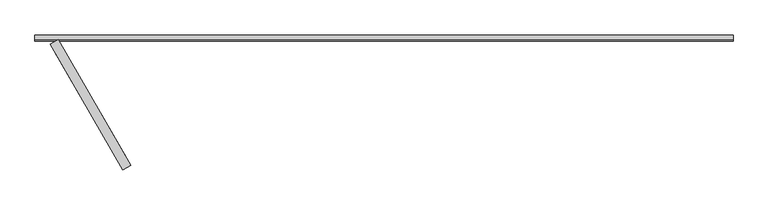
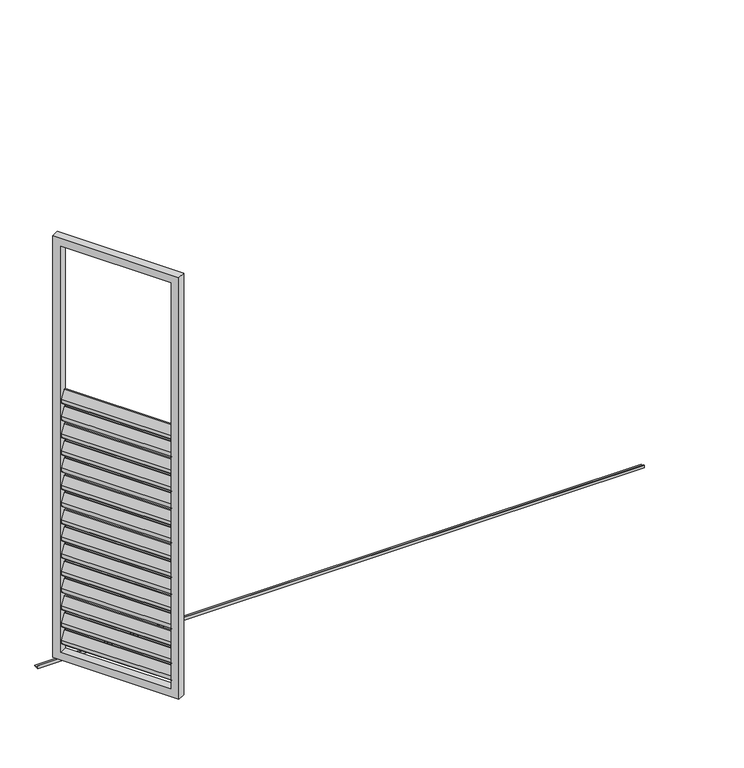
"""IFC4 building model written with IfcOpenShell, lengths in millimetres: proxy geometry, Renson_Amani_Loggia_Paro_Aluminium_Folding : Renson_Amani_Loggia_Paro_Aluminium_Folding."""

from ifc_helpers import new_model, si_unit, point, frame, frame_2d, origin, place, context, project, spatial, polyline, circle_curve, trimmed, segment, composite_curve, outline, extrude, source, transform, mapped, element, save


def generic_models_0657f29a(model_context):
    return source(origin(), model_context, "Body", "SweptSolid", [
        extrude(outline(composite_curve([segment(polyline([(-44.0658831, 0.0), (0.8886405, 0.0), (17.0325667, -10.4839883)]), True, "CONTINUOUS"), segment(trimmed(circle_curve(frame_2d((15.3986496, -13.0)), 3.0), [point((17.0325667, -10.4839883))], [point((15.3986496, -16.0))], False, "CARTESIAN"), True, "CONTINUOUS"), segment(polyline([(15.3986496, -16.0), (-28.6672334, -16.0)]), True, "CONTINUOUS"), segment(trimmed(circle_curve(frame_2d((-28.6672334, -13.0)), 3.0), [point((-28.6672334, -16.0))], [point((-30.3011505, -15.5160117))], False, "CARTESIAN"), True, "CONTINUOUS"), segment(polyline([(-30.3011505, -15.5160117), (-45.6998002, -5.5160117)]), True, "CONTINUOUS"), segment(trimmed(circle_curve(frame_2d((-44.0658831, -3.0)), 3.0), [point((-45.6998002, -5.5160117))], [point((-44.0658831, 0.0))], False, "CARTESIAN"), True, "CONTINUOUS")], self_intersect=False)), frame((297.8274249, 37.7168064, 1407.3359298), z_axis=(-0.5000000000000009, 0.8660254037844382, 0.0), x_axis=(-0.47167124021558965, -0.27231951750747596, -0.8386705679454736)), (0.0, 0.0, 1.0), 545.0),
        extrude(outline(composite_curve([segment(polyline([(-44.0658831, 0.0), (0.8886405, 0.0), (17.0325667, -10.4839883)]), True, "CONTINUOUS"), segment(trimmed(circle_curve(frame_2d((15.3986496, -13.0)), 3.0), [point((17.0325667, -10.4839883))], [point((15.3986496, -16.0))], False, "CARTESIAN"), True, "CONTINUOUS"), segment(polyline([(15.3986496, -16.0), (-28.6672334, -16.0)]), True, "CONTINUOUS"), segment(trimmed(circle_curve(frame_2d((-28.6672334, -13.0)), 3.0), [point((-28.6672334, -16.0))], [point((-30.3011505, -15.5160117))], False, "CARTESIAN"), True, "CONTINUOUS"), segment(polyline([(-30.3011505, -15.5160117), (-45.6998002, -5.5160117)]), True, "CONTINUOUS"), segment(trimmed(circle_curve(frame_2d((-44.0658831, -3.0)), 3.0), [point((-45.6998002, -5.5160117))], [point((-44.0658831, 0.0))], False, "CARTESIAN"), True, "CONTINUOUS")], self_intersect=False)), frame((297.8274249, 37.7168064, 1317.3359298), z_axis=(-0.5000000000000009, 0.8660254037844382, 0.0), x_axis=(-0.47167124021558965, -0.27231951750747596, -0.8386705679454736)), (0.0, 0.0, 1.0), 545.0),
        extrude(outline(composite_curve([segment(polyline([(-44.0658831, 0.0), (0.8886405, 0.0), (17.0325667, -10.4839883)]), True, "CONTINUOUS"), segment(trimmed(circle_curve(frame_2d((15.3986496, -13.0)), 3.0), [point((17.0325667, -10.4839883))], [point((15.3986496, -16.0))], False, "CARTESIAN"), True, "CONTINUOUS"), segment(polyline([(15.3986496, -16.0), (-28.6672334, -16.0)]), True, "CONTINUOUS"), segment(trimmed(circle_curve(frame_2d((-28.6672334, -13.0)), 3.0), [point((-28.6672334, -16.0))], [point((-30.3011505, -15.5160117))], False, "CARTESIAN"), True, "CONTINUOUS"), segment(polyline([(-30.3011505, -15.5160117), (-45.6998002, -5.5160117)]), True, "CONTINUOUS"), segment(trimmed(circle_curve(frame_2d((-44.0658831, -3.0)), 3.0), [point((-45.6998002, -5.5160117))], [point((-44.0658831, 0.0))], False, "CARTESIAN"), True, "CONTINUOUS")], self_intersect=False)), frame((297.8274249, 37.7168064, 1227.3359298), z_axis=(-0.5000000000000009, 0.8660254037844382, 0.0), x_axis=(-0.47167124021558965, -0.27231951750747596, -0.8386705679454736)), (0.0, 0.0, 1.0), 545.0),
        extrude(outline(composite_curve([segment(polyline([(-44.0658831, 0.0), (0.8886405, 0.0), (17.0325667, -10.4839883)]), True, "CONTINUOUS"), segment(trimmed(circle_curve(frame_2d((15.3986496, -13.0)), 3.0), [point((17.0325667, -10.4839883))], [point((15.3986496, -16.0))], False, "CARTESIAN"), True, "CONTINUOUS"), segment(polyline([(15.3986496, -16.0), (-28.6672334, -16.0)]), True, "CONTINUOUS"), segment(trimmed(circle_curve(frame_2d((-28.6672334, -13.0)), 3.0), [point((-28.6672334, -16.0))], [point((-30.3011505, -15.5160117))], False, "CARTESIAN"), True, "CONTINUOUS"), segment(polyline([(-30.3011505, -15.5160117), (-45.6998002, -5.5160117)]), True, "CONTINUOUS"), segment(trimmed(circle_curve(frame_2d((-44.0658831, -3.0)), 3.0), [point((-45.6998002, -5.5160117))], [point((-44.0658831, 0.0))], False, "CARTESIAN"), True, "CONTINUOUS")], self_intersect=False)), frame((297.8274249, 37.7168064, 1137.3359298), z_axis=(-0.5000000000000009, 0.8660254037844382, 0.0), x_axis=(-0.47167124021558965, -0.27231951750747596, -0.8386705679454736)), (0.0, 0.0, 1.0), 545.0),
        extrude(outline(composite_curve([segment(polyline([(-44.0658831, 0.0), (0.8886405, 0.0), (17.0325667, -10.4839883)]), True, "CONTINUOUS"), segment(trimmed(circle_curve(frame_2d((15.3986496, -13.0)), 3.0), [point((17.0325667, -10.4839883))], [point((15.3986496, -16.0))], False, "CARTESIAN"), True, "CONTINUOUS"), segment(polyline([(15.3986496, -16.0), (-28.6672334, -16.0)]), True, "CONTINUOUS"), segment(trimmed(circle_curve(frame_2d((-28.6672334, -13.0)), 3.0), [point((-28.6672334, -16.0))], [point((-30.3011505, -15.5160117))], False, "CARTESIAN"), True, "CONTINUOUS"), segment(polyline([(-30.3011505, -15.5160117), (-45.6998002, -5.5160117)]), True, "CONTINUOUS"), segment(trimmed(circle_curve(frame_2d((-44.0658831, -3.0)), 3.0), [point((-45.6998002, -5.5160117))], [point((-44.0658831, 0.0))], False, "CARTESIAN"), True, "CONTINUOUS")], self_intersect=False)), frame((297.8274249, 37.7168064, 1047.3359298), z_axis=(-0.5000000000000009, 0.8660254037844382, 0.0), x_axis=(-0.47167124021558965, -0.27231951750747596, -0.8386705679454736)), (0.0, 0.0, 1.0), 545.0),
        extrude(outline(composite_curve([segment(polyline([(-44.0658831, 0.0), (0.8886405, 0.0), (17.0325667, -10.4839883)]), True, "CONTINUOUS"), segment(trimmed(circle_curve(frame_2d((15.3986496, -13.0)), 3.0), [point((17.0325667, -10.4839883))], [point((15.3986496, -16.0))], False, "CARTESIAN"), True, "CONTINUOUS"), segment(polyline([(15.3986496, -16.0), (-28.6672334, -16.0)]), True, "CONTINUOUS"), segment(trimmed(circle_curve(frame_2d((-28.6672334, -13.0)), 3.0), [point((-28.6672334, -16.0))], [point((-30.3011505, -15.5160117))], False, "CARTESIAN"), True, "CONTINUOUS"), segment(polyline([(-30.3011505, -15.5160117), (-45.6998002, -5.5160117)]), True, "CONTINUOUS"), segment(trimmed(circle_curve(frame_2d((-44.0658831, -3.0)), 3.0), [point((-45.6998002, -5.5160117))], [point((-44.0658831, 0.0))], False, "CARTESIAN"), True, "CONTINUOUS")], self_intersect=False)), frame((297.8274249, 37.7168064, 957.3359298), z_axis=(-0.5000000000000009, 0.8660254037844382, 0.0), x_axis=(-0.47167124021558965, -0.27231951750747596, -0.8386705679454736)), (0.0, 0.0, 1.0), 545.0),
        extrude(outline(composite_curve([segment(polyline([(-44.0658831, 0.0), (0.8886405, 0.0), (17.0325667, -10.4839883)]), True, "CONTINUOUS"), segment(trimmed(circle_curve(frame_2d((15.3986496, -13.0)), 3.0), [point((17.0325667, -10.4839883))], [point((15.3986496, -16.0))], False, "CARTESIAN"), True, "CONTINUOUS"), segment(polyline([(15.3986496, -16.0), (-28.6672334, -16.0)]), True, "CONTINUOUS"), segment(trimmed(circle_curve(frame_2d((-28.6672334, -13.0)), 3.0), [point((-28.6672334, -16.0))], [point((-30.3011505, -15.5160117))], False, "CARTESIAN"), True, "CONTINUOUS"), segment(polyline([(-30.3011505, -15.5160117), (-45.6998002, -5.5160117)]), True, "CONTINUOUS"), segment(trimmed(circle_curve(frame_2d((-44.0658831, -3.0)), 3.0), [point((-45.6998002, -5.5160117))], [point((-44.0658831, 0.0))], False, "CARTESIAN"), True, "CONTINUOUS")], self_intersect=False)), frame((297.8274249, 37.7168064, 867.3359298), z_axis=(-0.5000000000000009, 0.8660254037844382, 0.0), x_axis=(-0.47167124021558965, -0.27231951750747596, -0.8386705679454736)), (0.0, 0.0, 1.0), 545.0),
        extrude(outline(composite_curve([segment(polyline([(-44.0658831, 0.0), (0.8886405, 0.0), (17.0325667, -10.4839883)]), True, "CONTINUOUS"), segment(trimmed(circle_curve(frame_2d((15.3986496, -13.0)), 3.0), [point((17.0325667, -10.4839883))], [point((15.3986496, -16.0))], False, "CARTESIAN"), True, "CONTINUOUS"), segment(polyline([(15.3986496, -16.0), (-28.6672334, -16.0)]), True, "CONTINUOUS"), segment(trimmed(circle_curve(frame_2d((-28.6672334, -13.0)), 3.0), [point((-28.6672334, -16.0))], [point((-30.3011505, -15.5160117))], False, "CARTESIAN"), True, "CONTINUOUS"), segment(polyline([(-30.3011505, -15.5160117), (-45.6998002, -5.5160117)]), True, "CONTINUOUS"), segment(trimmed(circle_curve(frame_2d((-44.0658831, -3.0)), 3.0), [point((-45.6998002, -5.5160117))], [point((-44.0658831, 0.0))], False, "CARTESIAN"), True, "CONTINUOUS")], self_intersect=False)), frame((297.8274249, 37.7168064, 777.3359298), z_axis=(-0.5000000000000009, 0.8660254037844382, 0.0), x_axis=(-0.47167124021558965, -0.27231951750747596, -0.8386705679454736)), (0.0, 0.0, 1.0), 545.0),
        extrude(outline(composite_curve([segment(polyline([(-44.0658831, 0.0), (0.8886405, 0.0), (17.0325667, -10.4839883)]), True, "CONTINUOUS"), segment(trimmed(circle_curve(frame_2d((15.3986496, -13.0)), 3.0), [point((17.0325667, -10.4839883))], [point((15.3986496, -16.0))], False, "CARTESIAN"), True, "CONTINUOUS"), segment(polyline([(15.3986496, -16.0), (-28.6672334, -16.0)]), True, "CONTINUOUS"), segment(trimmed(circle_curve(frame_2d((-28.6672334, -13.0)), 3.0), [point((-28.6672334, -16.0))], [point((-30.3011505, -15.5160117))], False, "CARTESIAN"), True, "CONTINUOUS"), segment(polyline([(-30.3011505, -15.5160117), (-45.6998002, -5.5160117)]), True, "CONTINUOUS"), segment(trimmed(circle_curve(frame_2d((-44.0658831, -3.0)), 3.0), [point((-45.6998002, -5.5160117))], [point((-44.0658831, 0.0))], False, "CARTESIAN"), True, "CONTINUOUS")], self_intersect=False)), frame((297.8274249, 37.7168064, 687.3359298), z_axis=(-0.5000000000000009, 0.8660254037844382, 0.0), x_axis=(-0.47167124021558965, -0.27231951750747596, -0.8386705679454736)), (0.0, 0.0, 1.0), 545.0),
        extrude(outline(composite_curve([segment(polyline([(-44.0658831, 0.0), (0.8886405, 0.0), (17.0325667, -10.4839883)]), True, "CONTINUOUS"), segment(trimmed(circle_curve(frame_2d((15.3986496, -13.0)), 3.0), [point((17.0325667, -10.4839883))], [point((15.3986496, -16.0))], False, "CARTESIAN"), True, "CONTINUOUS"), segment(polyline([(15.3986496, -16.0), (-28.6672334, -16.0)]), True, "CONTINUOUS"), segment(trimmed(circle_curve(frame_2d((-28.6672334, -13.0)), 3.0), [point((-28.6672334, -16.0))], [point((-30.3011505, -15.5160117))], False, "CARTESIAN"), True, "CONTINUOUS"), segment(polyline([(-30.3011505, -15.5160117), (-45.6998002, -5.5160117)]), True, "CONTINUOUS"), segment(trimmed(circle_curve(frame_2d((-44.0658831, -3.0)), 3.0), [point((-45.6998002, -5.5160117))], [point((-44.0658831, 0.0))], False, "CARTESIAN"), True, "CONTINUOUS")], self_intersect=False)), frame((297.8274249, 37.7168064, 597.3359298), z_axis=(-0.5000000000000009, 0.8660254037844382, 0.0), x_axis=(-0.47167124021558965, -0.27231951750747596, -0.8386705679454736)), (0.0, 0.0, 1.0), 545.0),
        extrude(outline(composite_curve([segment(polyline([(-44.0658831, 0.0), (0.8886405, 0.0), (17.0325667, -10.4839883)]), True, "CONTINUOUS"), segment(trimmed(circle_curve(frame_2d((15.3986496, -13.0)), 3.0), [point((17.0325667, -10.4839883))], [point((15.3986496, -16.0))], False, "CARTESIAN"), True, "CONTINUOUS"), segment(polyline([(15.3986496, -16.0), (-28.6672334, -16.0)]), True, "CONTINUOUS"), segment(trimmed(circle_curve(frame_2d((-28.6672334, -13.0)), 3.0), [point((-28.6672334, -16.0))], [point((-30.3011505, -15.5160117))], False, "CARTESIAN"), True, "CONTINUOUS"), segment(polyline([(-30.3011505, -15.5160117), (-45.6998002, -5.5160117)]), True, "CONTINUOUS"), segment(trimmed(circle_curve(frame_2d((-44.0658831, -3.0)), 3.0), [point((-45.6998002, -5.5160117))], [point((-44.0658831, 0.0))], False, "CARTESIAN"), True, "CONTINUOUS")], self_intersect=False)), frame((297.8274249, 37.7168064, 507.3359298), z_axis=(-0.5000000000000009, 0.8660254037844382, 0.0), x_axis=(-0.47167124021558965, -0.27231951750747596, -0.8386705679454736)), (0.0, 0.0, 1.0), 545.0),
        extrude(outline(composite_curve([segment(polyline([(-44.0658831, 0.0), (0.8886405, 0.0), (17.0325667, -10.4839883)]), True, "CONTINUOUS"), segment(trimmed(circle_curve(frame_2d((15.3986496, -13.0)), 3.0), [point((17.0325667, -10.4839883))], [point((15.3986496, -16.0))], False, "CARTESIAN"), True, "CONTINUOUS"), segment(polyline([(15.3986496, -16.0), (-28.6672334, -16.0)]), True, "CONTINUOUS"), segment(trimmed(circle_curve(frame_2d((-28.6672334, -13.0)), 3.0), [point((-28.6672334, -16.0))], [point((-30.3011505, -15.5160117))], False, "CARTESIAN"), True, "CONTINUOUS"), segment(polyline([(-30.3011505, -15.5160117), (-45.6998002, -5.5160117)]), True, "CONTINUOUS"), segment(trimmed(circle_curve(frame_2d((-44.0658831, -3.0)), 3.0), [point((-45.6998002, -5.5160117))], [point((-44.0658831, 0.0))], False, "CARTESIAN"), True, "CONTINUOUS")], self_intersect=False)), frame((297.8274249, 37.7168064, 417.3359298), z_axis=(-0.5000000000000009, 0.8660254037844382, 0.0), x_axis=(-0.47167124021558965, -0.27231951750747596, -0.8386705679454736)), (0.0, 0.0, 1.0), 545.0),
        extrude(outline(composite_curve([segment(polyline([(-44.0658831, 0.0), (0.8886405, 0.0), (17.0325667, -10.4839883)]), True, "CONTINUOUS"), segment(trimmed(circle_curve(frame_2d((15.3986496, -13.0)), 3.0), [point((17.0325667, -10.4839883))], [point((15.3986496, -16.0))], False, "CARTESIAN"), True, "CONTINUOUS"), segment(polyline([(15.3986496, -16.0), (-28.6672334, -16.0)]), True, "CONTINUOUS"), segment(trimmed(circle_curve(frame_2d((-28.6672334, -13.0)), 3.0), [point((-28.6672334, -16.0))], [point((-30.3011505, -15.5160117))], False, "CARTESIAN"), True, "CONTINUOUS"), segment(polyline([(-30.3011505, -15.5160117), (-45.6998002, -5.5160117)]), True, "CONTINUOUS"), segment(trimmed(circle_curve(frame_2d((-44.0658831, -3.0)), 3.0), [point((-45.6998002, -5.5160117))], [point((-44.0658831, 0.0))], False, "CARTESIAN"), True, "CONTINUOUS")], self_intersect=False)), frame((297.8274249, 37.7168064, 327.3359298), z_axis=(-0.5000000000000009, 0.8660254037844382, 0.0), x_axis=(-0.47167124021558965, -0.27231951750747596, -0.8386705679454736)), (0.0, 0.0, 1.0), 545.0),
        extrude(outline(composite_curve([segment(polyline([(-44.0658831, 0.0), (0.8886405, 0.0), (17.0325667, -10.4839883)]), True, "CONTINUOUS"), segment(trimmed(circle_curve(frame_2d((15.3986496, -13.0)), 3.0), [point((17.0325667, -10.4839883))], [point((15.3986496, -16.0))], False, "CARTESIAN"), True, "CONTINUOUS"), segment(polyline([(15.3986496, -16.0), (-28.6672334, -16.0)]), True, "CONTINUOUS"), segment(trimmed(circle_curve(frame_2d((-28.6672334, -13.0)), 3.0), [point((-28.6672334, -16.0))], [point((-30.3011505, -15.5160117))], False, "CARTESIAN"), True, "CONTINUOUS"), segment(polyline([(-30.3011505, -15.5160117), (-45.6998002, -5.5160117)]), True, "CONTINUOUS"), segment(trimmed(circle_curve(frame_2d((-44.0658831, -3.0)), 3.0), [point((-45.6998002, -5.5160117))], [point((-44.0658831, 0.0))], False, "CARTESIAN"), True, "CONTINUOUS")], self_intersect=False)), frame((297.8274249, 37.7168064, 237.3359298), z_axis=(-0.5000000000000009, 0.8660254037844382, 0.0), x_axis=(-0.47167124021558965, -0.27231951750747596, -0.8386705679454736)), (0.0, 0.0, 1.0), 545.0),
        extrude(outline(composite_curve([segment(polyline([(-44.0658831, 0.0), (0.8886405, 0.0), (17.0325667, -10.4839883)]), True, "CONTINUOUS"), segment(trimmed(circle_curve(frame_2d((15.3986496, -13.0)), 3.0), [point((17.0325667, -10.4839883))], [point((15.3986496, -16.0))], False, "CARTESIAN"), True, "CONTINUOUS"), segment(polyline([(15.3986496, -16.0), (-28.6672334, -16.0)]), True, "CONTINUOUS"), segment(trimmed(circle_curve(frame_2d((-28.6672334, -13.0)), 3.0), [point((-28.6672334, -16.0))], [point((-30.3011505, -15.5160117))], False, "CARTESIAN"), True, "CONTINUOUS"), segment(polyline([(-30.3011505, -15.5160117), (-45.6998002, -5.5160117)]), True, "CONTINUOUS"), segment(trimmed(circle_curve(frame_2d((-44.0658831, -3.0)), 3.0), [point((-45.6998002, -5.5160117))], [point((-44.0658831, 0.0))], False, "CARTESIAN"), True, "CONTINUOUS")], self_intersect=False)), frame((297.8274249, 37.7168064, 147.3359298), z_axis=(-0.5000000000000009, 0.8660254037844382, 0.0), x_axis=(-0.47167124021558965, -0.27231951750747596, -0.8386705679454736)), (0.0, 0.0, 1.0), 545.0),
        extrude(outline(polyline([(2165.0, -40.0), (-40.0, -40.0), (-40.0, 585.0), (2165.0, 585.0), (2165.0, -40.0)]), holes=[polyline([(2125.0, 544.9999999), (0.0, 544.9999999), (0.0, 0.0), (2125.0, 0.0), (2125.0, 544.9999999)])]), frame((20.0, 506.6248612, 85.0), z_axis=(0.8660254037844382, 0.5000000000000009, 0.0), x_axis=(0.0, 0.0, 1.0)), (0.0, 0.0, 1.0), 40.0),
        extrude(outline(polyline([(555.2658774, 15.0), (558.2658774, 15.0), (558.2658774, 3.0), (581.2658774, 3.0), (581.2658774, 0.0), (555.2658774, 0.0), (555.2658774, 15.0)])), frame((-64.9505096, 0.0, 0.0), z_axis=(1.0, 0.0, 0.0), x_axis=(0.0, 1.0, 0.0)), (0.0, 0.0, 1.0), 3000.0),
    ])


if __name__ == "__main__":
    model = new_model("IFC4")
    model_context = context("Model", 3, world=origin())
    ifc_project = project(units=[si_unit("LENGTHUNIT", "METRE", prefix="MILLI")], contexts=[model_context])
    site = spatial("IfcSite", under=ifc_project)
    building = spatial("IfcBuilding", under=site)
    placement = place(None, origin())
    generic_models_shape = generic_models_0657f29a(model_context)
    element("IfcBuildingElementProxy", 1, Name="Renson_Amani_Loggia_Paro_Aluminium_Folding : Renson_Amani_Loggia_Paro_Aluminium_Folding", ObjectType="Renson_Amani_Loggia_Paro_Aluminium_Folding : Renson_Amani_Loggia_Paro_Aluminium_Folding", at=placement, inside=building, context=model_context, shape_type="MappedRepresentation", body=[
        mapped(generic_models_shape, transform((0.0, 0.0, 0.0), x_axis=(1.0, 0.0, 0.0), y_axis=(0.0, 1.0, 0.0), z_axis=(0.0, 0.0, 1.0))),
    ])
    save(model, "model.ifc")
